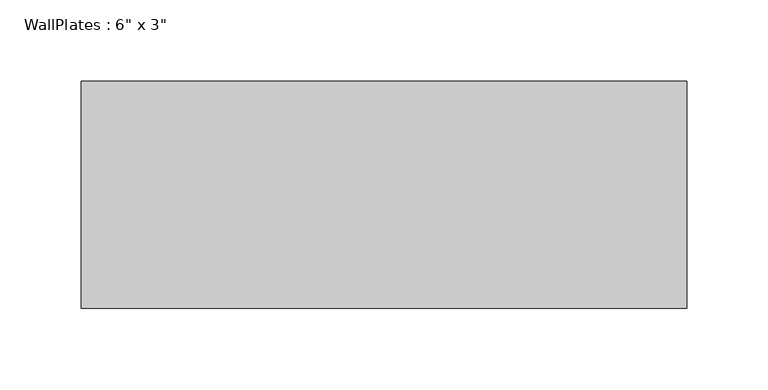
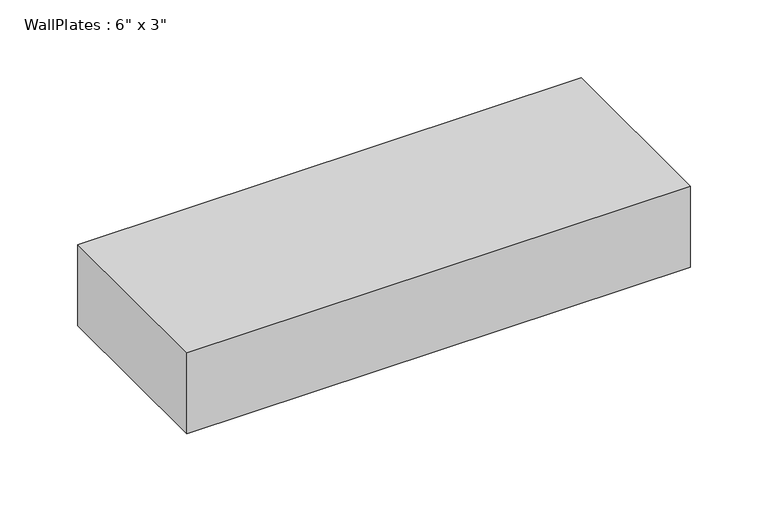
"""IFC4 building model written with IfcOpenShell, lengths in millimetres: beam geometry."""

from ifc_helpers import new_model, si_unit, frame, origin, place, context, project, spatial, polyline, outline, extrude, source, transform, mapped, element, save


def beam_b09705a2(model_context):
    return source(origin(), model_context, "Body", "SweptSolid", [
        extrude(outline(polyline([(-186.2666667, -69.85), (-186.2666667, 69.85), (186.2666667, 69.85), (186.2666667, -69.85), (-186.2666667, -69.85)])), frame((0.0, 0.0, -31.75), z_axis=(0.0, 0.0, 1.0), x_axis=(1.0, 0.0, 0.0)), (0.0, 0.0, 1.0), 63.5),
    ])


if __name__ == "__main__":
    model = new_model("IFC4")
    model_context = context("Model", 3, world=origin())
    ifc_project = project(units=[si_unit("LENGTHUNIT", "METRE", prefix="MILLI")], contexts=[model_context])
    site = spatial("IfcSite", under=ifc_project)
    building = spatial("IfcBuilding", under=site)
    placement = place(None, origin())
    beam_shape = beam_b09705a2(model_context)
    element("IfcBeam", 1, ObjectType="WallPlates : 6\" x 3\"", at=placement, inside=building, context=model_context, shape_type="MappedRepresentation", body=[
        mapped(beam_shape, transform((0.0, 0.0, 0.0), x_axis=(1.0, 0.0, 0.0), y_axis=(0.0, 1.0, 0.0), z_axis=(0.0, 0.0, 1.0))),
    ])
    save(model, "model.ifc")
